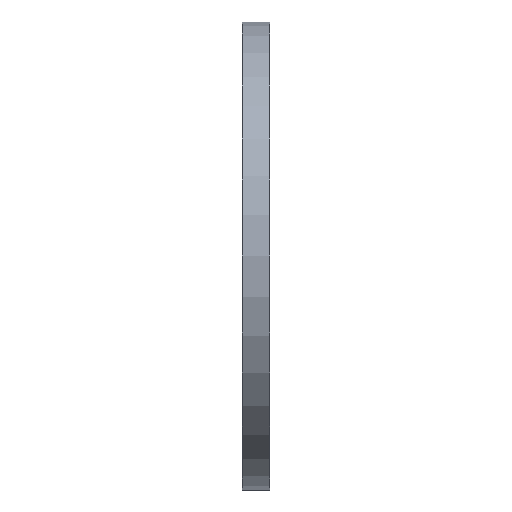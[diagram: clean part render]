
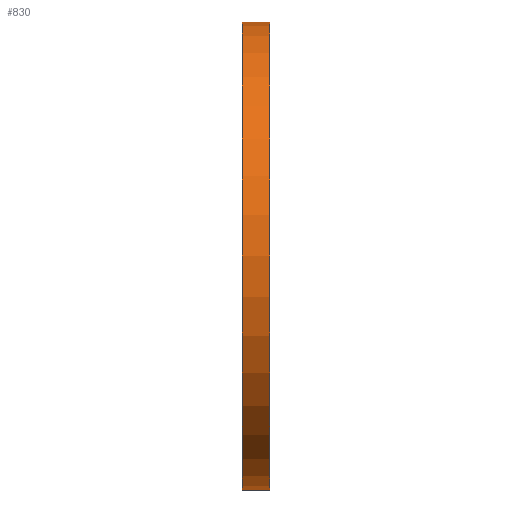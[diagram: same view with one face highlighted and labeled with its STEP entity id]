
A CAD part, left-side view. The second image highlights one B-rep face of the part: STEP entity #830.
In plain terms, the highlighted cylindrical face has radius 222.5 mm (diameter 445 mm), a partial arc.
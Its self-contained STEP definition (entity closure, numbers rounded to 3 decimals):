
#37 = ORIENTED_EDGE ( 'NONE', *, *, #896, .T. ) ;
#101 = CARTESIAN_POINT ( 'NONE',  ( 0., 26., 0. ) ) ;
#144 = VERTEX_POINT ( 'NONE', #735 ) ;
#226 = VERTEX_POINT ( 'NONE', #948 ) ;
#227 = CIRCLE ( 'NONE', #420, 222.5 ) ;
#238 = LINE ( 'NONE', #900, #704 ) ;
#248 = EDGE_CURVE ( 'NONE', #144, #313, #855, .T. ) ;
#285 = DIRECTION ( 'NONE',  ( 0., 0., 1. ) ) ;
#309 = ORIENTED_EDGE ( 'NONE', *, *, #997, .F. ) ;
#313 = VERTEX_POINT ( 'NONE', #1057 ) ;
#335 = AXIS2_PLACEMENT_3D ( 'NONE', #1162, #1182, #389 ) ;
#341 = VERTEX_POINT ( 'NONE', #984 ) ;
#361 = FACE_OUTER_BOUND ( 'NONE', #388, .T. ) ;
#388 = EDGE_LOOP ( 'NONE', ( #309, #37, #662, #744 ) ) ;
#389 = DIRECTION ( 'NONE',  ( 0., 0., 1. ) ) ;
#420 = AXIS2_PLACEMENT_3D ( 'NONE', #101, #461, #285 ) ;
#461 = DIRECTION ( 'NONE',  ( 0., 1., 0. ) ) ;
#590 = DIRECTION ( 'NONE',  ( 0., 1., 0. ) ) ;
#623 = DIRECTION ( 'NONE',  ( 0., 1., 0. ) ) ;
#662 = ORIENTED_EDGE ( 'NONE', *, *, #248, .T. ) ;
#704 = VECTOR ( 'NONE', #623, 1000. ) ;
#735 = CARTESIAN_POINT ( 'NONE',  ( 0., 0., 222.5 ) ) ;
#744 = ORIENTED_EDGE ( 'NONE', *, *, #1146, .F. ) ;
#784 = DIRECTION ( 'NONE',  ( 0., 1., 0. ) ) ;
#812 = CYLINDRICAL_SURFACE ( 'NONE', #335, 222.5 ) ;
#830 = ADVANCED_FACE ( 'NONE', ( #361 ), #812, .T. ) ;
#855 = LINE ( 'NONE', #1137, #1090 ) ;
#896 = EDGE_CURVE ( 'NONE', #226, #144, #1061, .T. ) ;
#900 = CARTESIAN_POINT ( 'NONE',  ( 0., 34.695, -222.5 ) ) ;
#948 = CARTESIAN_POINT ( 'NONE',  ( 0., 0., -222.5 ) ) ;
#984 = CARTESIAN_POINT ( 'NONE',  ( 0., 26., -222.5 ) ) ;
#997 = EDGE_CURVE ( 'NONE', #226, #341, #238, .T. ) ;
#1054 = CARTESIAN_POINT ( 'NONE',  ( 0., 0., 0. ) ) ;
#1057 = CARTESIAN_POINT ( 'NONE',  ( 0., 26., 222.5 ) ) ;
#1061 = CIRCLE ( 'NONE', #1098, 222.5 ) ;
#1090 = VECTOR ( 'NONE', #590, 1000. ) ;
#1098 = AXIS2_PLACEMENT_3D ( 'NONE', #1054, #784, #1128 ) ;
#1128 = DIRECTION ( 'NONE',  ( 0., 0., 1. ) ) ;
#1137 = CARTESIAN_POINT ( 'NONE',  ( 0., 34.695, 222.5 ) ) ;
#1146 = EDGE_CURVE ( 'NONE', #341, #313, #227, .T. ) ;
#1162 = CARTESIAN_POINT ( 'NONE',  ( 0., 34.695, 0. ) ) ;
#1182 = DIRECTION ( 'NONE',  ( 0., 1., 0. ) ) ;
